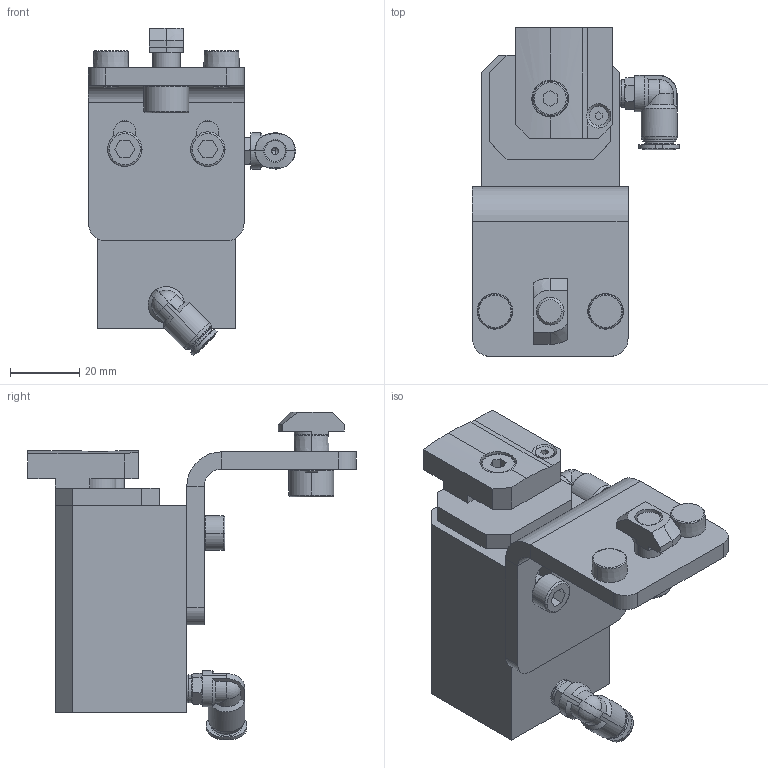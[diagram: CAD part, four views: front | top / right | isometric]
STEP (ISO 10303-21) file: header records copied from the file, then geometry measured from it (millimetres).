
FILE_DESCRIPTION (( 'STEP AP203' ), '1' );
FILE_NAME ('ASUTEC-ASME-60-102.STEP', '2017-03-20T14:27:35', ( '' ), ( '' ), 'SwSTEP 2.0', 'SolidWorks 2015', '' );
FILE_SCHEMA (( 'CONFIG_CONTROL_DESIGN' ));
Length unit declared in the file: millimetre
Products named in the file (1): ASUTEC-ASME-60-102
Bounding box: 59.9 x 95 x 94.78 mm (x, y, z)
Volume: 122455.3 mm3; surface area: 38819.5 mm2
Topology: 3 solids, 5 shells, 673 faces, 1692 edges, 1083 vertices
Faces by surface type: plane 308, cylinder 184, cone 87, bspline 48, torus 26, sphere 20
Entity records: 23617 total; most frequent: CARTESIAN_POINT 7603, ORIENTED_EDGE 3362, DIRECTION 3215, EDGE_CURVE 1681, AXIS2_PLACEMENT_3D 1141, VERTEX_POINT 1083, LINE 933, VECTOR 933
